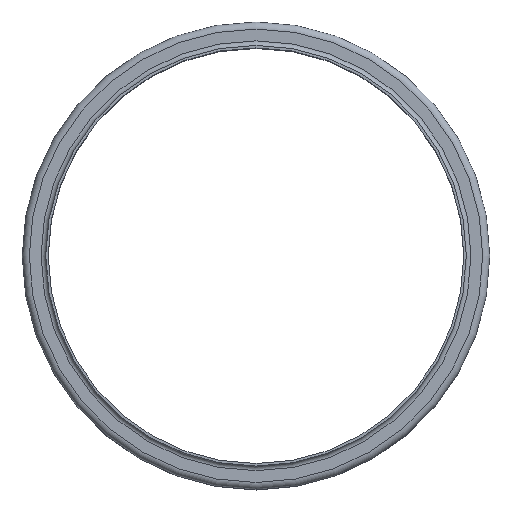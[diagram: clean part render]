
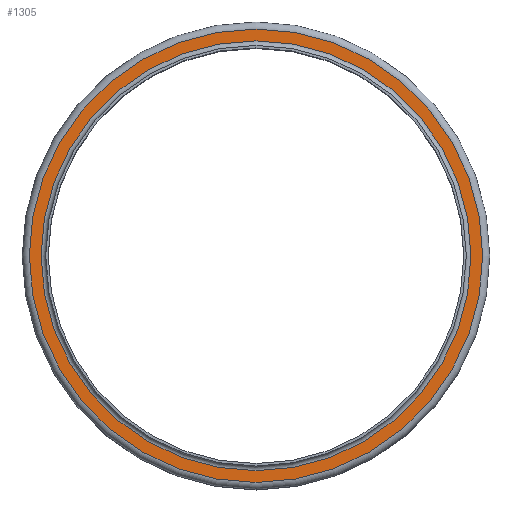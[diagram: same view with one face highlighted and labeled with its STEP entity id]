
A CAD part, top view. The second image highlights one B-rep face of the part: STEP entity #1305.
In plain terms, the highlighted planar face has unit normal (0, 0, 1).
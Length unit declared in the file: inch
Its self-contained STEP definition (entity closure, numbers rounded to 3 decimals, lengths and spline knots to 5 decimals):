
#130=FACE_BOUND('',#384,.T.);
#229=FACE_OUTER_BOUND('',#383,.T.);
#383=EDGE_LOOP('',(#1108));
#384=EDGE_LOOP('',(#1109));
#545=CIRCLE('',#1574,10.34125);
#546=CIRCLE('',#1576,10.90875);
#658=VERTEX_POINT('',#2470);
#659=VERTEX_POINT('',#2474);
#811=EDGE_CURVE('',#658,#658,#545,.T.);
#812=EDGE_CURVE('',#659,#659,#546,.T.);
#1108=ORIENTED_EDGE('',*,*,#812,.F.);
#1109=ORIENTED_EDGE('',*,*,#811,.T.);
#1206=PLANE('',#1575);
#1305=ADVANCED_FACE('',(#229,#130),#1206,.T.);
#1574=AXIS2_PLACEMENT_3D('',#2472,#2070,#2071);
#1575=AXIS2_PLACEMENT_3D('',#2473,#2072,#2073);
#1576=AXIS2_PLACEMENT_3D('',#2475,#2074,#2075);
#2070=DIRECTION('center_axis',(0.,0.,-1.));
#2071=DIRECTION('ref_axis',(1.,0.,0.));
#2072=DIRECTION('center_axis',(0.,0.,1.));
#2073=DIRECTION('ref_axis',(1.,0.,0.));
#2074=DIRECTION('center_axis',(0.,0.,-1.));
#2075=DIRECTION('ref_axis',(1.,0.,0.));
#2470=CARTESIAN_POINT('',(10.34125,0.,-0.22125));
#2472=CARTESIAN_POINT('Origin',(0.,0.,-0.22125));
#2473=CARTESIAN_POINT('Origin',(0.,10.90875,-0.22125));
#2474=CARTESIAN_POINT('',(10.90875,0.,-0.22125));
#2475=CARTESIAN_POINT('Origin',(0.,0.,-0.22125));
